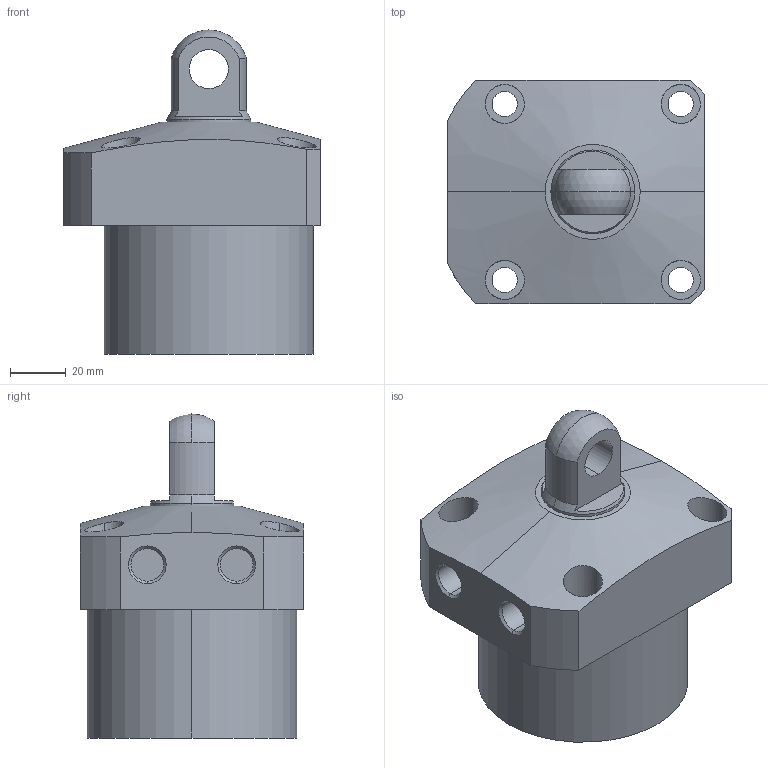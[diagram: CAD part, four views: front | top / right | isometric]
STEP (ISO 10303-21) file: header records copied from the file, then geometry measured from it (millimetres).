
FILE_DESCRIPTION (( 'STEP AP203' ), '1' );
FILE_NAME ('CLL-075CP-30.STEP', '2019-12-20T08:25:04', ( '' ), ( '' ), 'SwSTEP 2.0', 'SolidWorks 2015', '' );
FILE_SCHEMA (( 'CONFIG_CONTROL_DESIGN' ));
Length unit declared in the file: millimetre
Products named in the file (1): CLL-075CP-30
Bounding box: 92 x 80 x 116 mm (x, y, z)
Volume: 432691.5 mm3; surface area: 42108.1 mm2
Topology: 1 solids, 1 shells, 66 faces, 155 edges, 101 vertices
Faces by surface type: cylinder 35, plane 21, cone 8, sphere 2
Entity records: 2408 total; most frequent: CARTESIAN_POINT 755, DIRECTION 345, ORIENTED_EDGE 310, EDGE_CURVE 155, AXIS2_PLACEMENT_3D 143, VERTEX_POINT 101, EDGE_LOOP 86, CIRCLE 76
